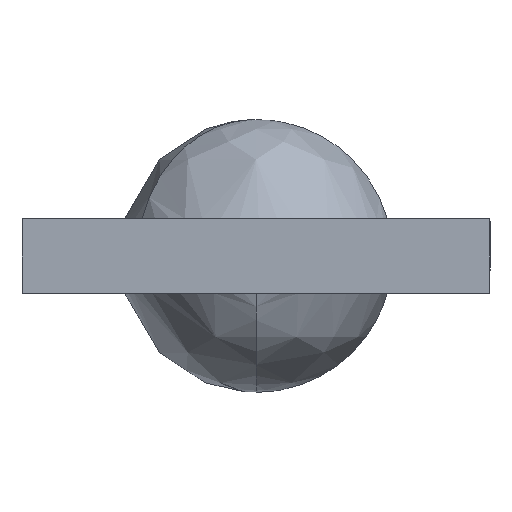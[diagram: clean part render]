
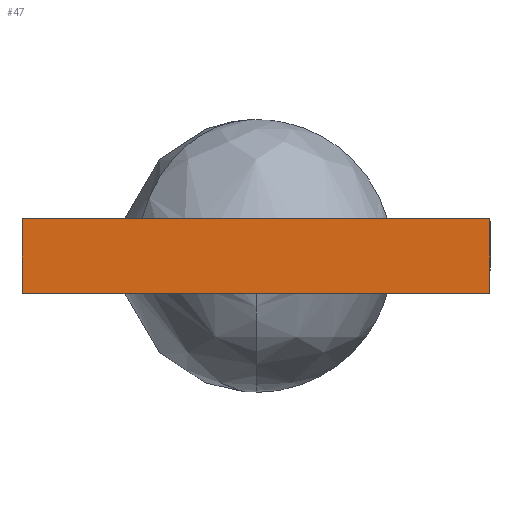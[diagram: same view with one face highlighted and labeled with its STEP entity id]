
A CAD part, front view. The second image highlights one B-rep face of the part: STEP entity #47.
In plain terms, the highlighted planar face has unit normal (0, -1, 0) as drawn and (-1, 0, 0) by its records, which use the part's own axes.
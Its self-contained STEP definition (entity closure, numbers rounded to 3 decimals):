
#47=ADVANCED_FACE('',(#182),#1950,.T.);
#182=FACE_OUTER_BOUND('',#313,.T.);
#313=EDGE_LOOP('',(#567,#568,#569,#570));
#567=ORIENTED_EDGE('',*,*,#1162,.F.);
#568=ORIENTED_EDGE('',*,*,#1157,.T.);
#569=ORIENTED_EDGE('',*,*,#1169,.T.);
#570=ORIENTED_EDGE('',*,*,#1164,.F.);
#1157=EDGE_CURVE('',#1803,#1804,#1463,.T.);
#1162=EDGE_CURVE('',#1803,#1805,#1466,.T.);
#1164=EDGE_CURVE('',#1805,#1806,#1468,.T.);
#1169=EDGE_CURVE('',#1804,#1806,#1471,.T.);
#1463=B_SPLINE_CURVE_WITH_KNOTS('',1,(#6091,#6092),.UNSPECIFIED.,.F.,.F.,
(2,2),(0.,38.),.UNSPECIFIED.);
#1466=B_SPLINE_CURVE_WITH_KNOTS('',1,(#6103,#6104),.UNSPECIFIED.,.F.,.F.,
(2,2),(-240.,0.),.UNSPECIFIED.);
#1468=B_SPLINE_CURVE_WITH_KNOTS('',1,(#6107,#6108),.UNSPECIFIED.,.F.,.F.,
(2,2),(-38.,0.),.UNSPECIFIED.);
#1471=B_SPLINE_CURVE_WITH_KNOTS('',1,(#6119,#6120),.UNSPECIFIED.,.F.,.F.,
(2,2),(-240.,0.),.UNSPECIFIED.);
#1803=VERTEX_POINT('',#5358);
#1804=VERTEX_POINT('',#5359);
#1805=VERTEX_POINT('',#5360);
#1806=VERTEX_POINT('',#5361);
#1950=PLANE('',#2345);
#2345=AXIS2_PLACEMENT_3D('',#2643,#2404,$);
#2404=DIRECTION('',(-1.,0.,0.));
#2643=CARTESIAN_POINT('',(-500.,22.82,144.02));
#5358=CARTESIAN_POINT('',(-500.,19.,-120.));
#5359=CARTESIAN_POINT('',(-500.,-19.,-120.));
#5360=CARTESIAN_POINT('',(-500.,19.,120.));
#5361=CARTESIAN_POINT('',(-500.,-19.,120.));
#6091=CARTESIAN_POINT('',(-500.,19.,-120.));
#6092=CARTESIAN_POINT('',(-500.,-19.,-120.));
#6103=CARTESIAN_POINT('',(-500.,19.,-120.));
#6104=CARTESIAN_POINT('',(-500.,19.,120.));
#6107=CARTESIAN_POINT('',(-500.,19.,120.));
#6108=CARTESIAN_POINT('',(-500.,-19.,120.));
#6119=CARTESIAN_POINT('',(-500.,-19.,-120.));
#6120=CARTESIAN_POINT('',(-500.,-19.,120.));
